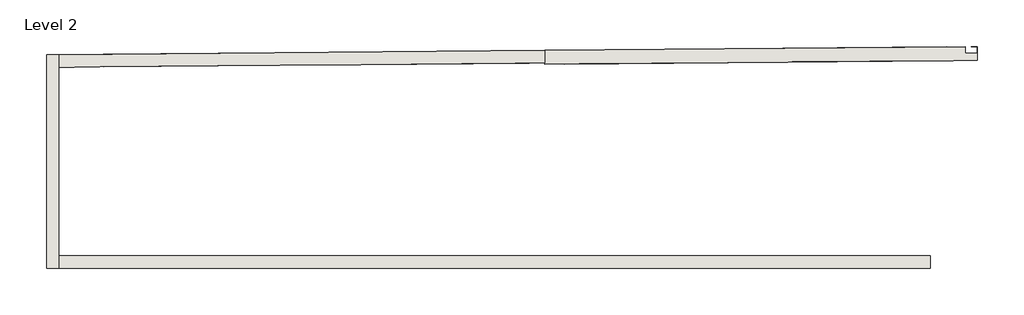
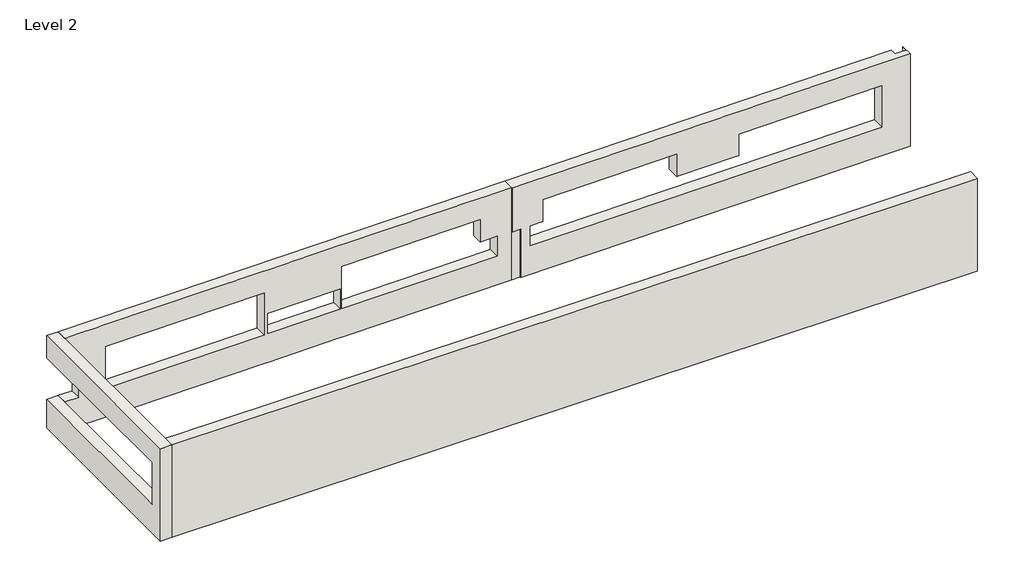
# One storey: 4 walls.
"""IFC4 building model written with IfcOpenShell, lengths in millimetres."""

from ifc_helpers import new_model, si_unit, origin, place, context, project, spatial, faceted_brep, element, save

model = new_model("IFC4")

# Units and contexts
model_context = context("Model", 3, world=origin())
ifc_project = project(units=[si_unit("LENGTHUNIT", "METRE", prefix="MILLI")], contexts=[model_context])

# Site, building, storey
site = spatial("IfcSite", under=ifc_project)
building = spatial("IfcBuilding", under=site)
storey = spatial("IfcBuildingStorey", under=building, Name="Level 2", Elevation=3200.4)

# Walls
placement = place(None, origin())
element("IfcWall", 1, ObjectType="Generic - 14\"", at=placement, inside=storey, context=model_context, shape_type="Brep", body=[
    faceted_brep([(-44628.0293915, 6746.9107856, 2307.6227604), (-44628.0293915, 6746.9107856, 941.5427435), (-45066.7463237, 6742.9289045, 941.5427435), (-45066.7463237, 6742.9289045, 0.0), (-44630.6658127, 6746.8868569, 0.0), (-44046.4658127, 6752.189171, 0.0), (-38857.288104, 6799.2871679, 0.0), (-38742.988104, 6800.3245772, 0.0), (-36479.0233909, 6820.872766, 0.0), (-36428.2254832, 6821.3338178, 0.0), (-31148.8430205, 6869.2505309, 0.0), (-31148.8430205, 6869.2505309, 1589.2859375), (-31148.8430205, 6869.2505309, 3028.95), (-32016.8796389, 6861.3720599, 3028.95), (-32118.4796389, 6860.4499183, 3028.95), (-36428.2254832, 6821.3338178, 3028.95), (-36479.0233909, 6820.872766, 3028.95), (-38742.988104, 6800.3245772, 3028.95), (-38857.288104, 6799.2871679, 3028.95), (-43894.0658127, 6753.5723833, 3028.95), (-44046.4658127, 6752.189171, 3028.95), (-44630.6658127, 6746.8868569, 3028.95), (-45066.7463237, 6742.9289045, 3028.95), (-45066.7463237, 6742.9289045, 2307.6227604), (-43791.710308, 6754.501382, 941.5427435), (-43791.710308, 6754.501382, 2317.4781885), (-38857.4043209, 6799.2861131, 2317.4781885), (-38857.4043209, 6799.2861131, 941.5427435), (-38739.5302856, 6800.355961, 941.5427435), (-38739.5302856, 6800.355961, 1589.1201837), (-36479.0233909, 6820.872766, 1589.1201837), (-36479.0233909, 6820.872766, 941.5427435), (-36428.6882326, 6821.3296178, 941.5427435), (-36428.6882326, 6821.3296178, 2317.4781885), (-32115.5943235, 6860.476106, 2317.4781885), (-32115.5943235, 6860.476106, 1589.1201837), (-32016.8796389, 6861.3720599, 1589.1201837), (-31596.3210312, 6865.1891325, 1589.1201837), (-31596.3210312, 6865.1891325, 941.5427435), (-44631.2567541, 7102.4961398, 941.5427435), (-44631.2567541, 7102.4961398, 2307.6227604), (-45069.9736863, 7098.5142587, 2307.6227604), (-45069.9736863, 7098.5142587, 3028.95), (-31152.0703831, 7224.8358851, 3028.95), (-31152.0703831, 7224.8358851, 0.0), (-45069.9736863, 7098.5142587, 0.0), (-45069.9736863, 7098.5142587, 941.5427435), (-43794.9376706, 7110.0867362, 2317.4781885), (-43794.9376706, 7110.0867362, 941.5427435), (-38860.6316834, 7154.8714673, 941.5427435), (-38860.6316834, 7154.8714673, 2317.4781885), (-38742.7576482, 7155.9413153, 1589.1201837), (-38742.7576482, 7155.9413153, 941.5427435), (-36482.2507535, 7176.4581202, 941.5427435), (-36482.2507535, 7176.4581202, 1589.1201837), (-36431.9155952, 7176.914972, 2317.4781885), (-36431.9155952, 7176.914972, 941.5427435), (-31599.5483938, 7220.7744867, 941.5427435), (-31599.5483938, 7220.7744867, 1589.1201837), (-32118.821686, 7216.0614602, 1589.1201837), (-32118.821686, 7216.0614602, 2317.4781885), (-45069.3973245, 7035.0116932, 2307.6227604), (-45069.959087, 7096.9057421, 2307.6227604), (-45069.959087, 7096.9057421, 941.5427435), (-45069.3973245, 7035.0116932, 941.5427435), (-45069.3973245, 7035.0116932, 0.0), (-45069.959087, 7096.9057421, 0.0), (-45069.3973245, 7035.0116932, 3028.95), (-45069.959087, 7096.9057421, 3028.95)], [[[0, 1, 2, 3, 4, 5, 6, 7, 8, 9, 10, 11, 12, 13, 14, 15, 16, 17, 18, 19, 20, 21, 22, 23], [24, 25, 26, 27], [28, 29, 30, 31], [32, 33, 34, 35, 36, 37, 38]], [[39, 40, 41, 42, 43, 44, 45, 46], [47, 48, 49, 50], [51, 52, 53, 54], [55, 56, 57, 58, 59, 60]], [[24, 48, 47, 25]], [[25, 47, 50, 26]], [[26, 50, 49, 27]], [[48, 24, 27, 49]], [[39, 1, 0, 40]], [[40, 0, 23, 61, 62, 41]], [[1, 39, 46, 63, 64, 2]], [[28, 52, 51, 29]], [[29, 51, 54, 30]], [[30, 54, 53, 31]], [[52, 28, 31, 53]], [[32, 56, 55, 33]], [[33, 55, 60, 34]], [[34, 60, 59, 35]], [[35, 59, 58, 37, 36]], [[37, 58, 57, 38]], [[56, 32, 38, 57]], [[10, 9, 8, 7, 6, 5, 4, 3, 65, 66, 45, 44]], [[12, 11, 10, 44, 43]], [[45, 66, 65, 3, 2, 64, 63, 46]], [[22, 67, 68, 42, 41, 62, 61, 23]], [[22, 21, 20, 19, 18, 17, 16, 15, 14, 13, 12, 43, 42, 68, 67]]]),
])
element("IfcWall", 2, ObjectType="Generic - 14\"", at=placement, inside=storey, context=model_context, shape_type="Brep", body=[
    faceted_brep([(-45069.3973245, 984.9491383, 3028.95), (-45069.3973245, 984.9491383, 0.0), (-45069.3973245, 1340.5491383, 0.0), (-45069.3973245, 7035.0116932, 0.0), (-45069.3973245, 7035.0116932, 941.5427435), (-45069.3973245, 1429.4491383, 941.5427435), (-45069.3973245, 1429.4491383, 2307.6227604), (-45069.3973245, 7035.0116932, 2307.6227604), (-45069.3973245, 7035.0116932, 3028.95), (-45069.3973245, 1340.5491383, 3028.95), (-45424.9973245, 7096.9057421, 0.0), (-45424.9973245, 984.9491383, 0.0), (-45424.9973245, 984.9491383, 3028.95), (-45424.9973245, 7096.9057421, 3028.95), (-45424.9973245, 7096.9057421, 2307.6227604), (-45424.9973245, 1429.4491383, 2307.6227604), (-45424.9973245, 1429.4491383, 941.5427435), (-45424.9973245, 7096.9057421, 941.5427435), (-45069.959087, 7096.9057421, 0.0), (-45069.959087, 7096.9057421, 3028.95), (-45069.959087, 7096.9057421, 2307.6227604), (-45069.959087, 7096.9057421, 941.5427435)], [[[0, 1, 2, 3, 4, 5, 6, 7, 8, 9]], [[10, 11, 12, 13, 14, 15, 16, 17]], [[11, 10, 18, 3, 2, 1]], [[14, 13, 19, 20]], [[10, 17, 21, 18]], [[13, 12, 0, 9, 8, 19]], [[1, 0, 12, 11]], [[5, 16, 15, 6]], [[6, 15, 14, 20, 7]], [[16, 5, 4, 21, 17]], [[4, 3, 18, 21]], [[8, 7, 20, 19]]]),
])
element("IfcWall", 3, ObjectType="Generic - 14\"", at=placement, inside=storey, context=model_context, shape_type="Brep", body=[
    faceted_brep([(-45069.3973245, 984.9491383, 0.0), (-20105.8145713, 984.9491383, 0.0), (-20105.8145713, 984.9491383, 3028.95), (-45069.3973245, 984.9491383, 3028.95), (-45069.3973245, 1340.5491383, 0.0), (-45069.3973245, 1340.5491383, 3028.95), (-44630.6658127, 1340.5491383, 3028.95), (-44046.4658127, 1340.5491383, 3028.95), (-43894.0658127, 1340.5491383, 3028.95), (-20105.8145713, 1340.5491383, 3028.95), (-20105.8145713, 1340.5491383, 0.0)], [[[0, 1, 2, 3]], [[4, 5, 6, 7, 8, 9, 10]], [[1, 0, 4, 10]], [[0, 3, 5, 4]], [[2, 1, 10, 9]], [[3, 2, 9, 8, 7, 6, 5]]]),
])
element("IfcWall", 4, ObjectType="Generic - 15 1/2\"", at=placement, inside=storey, context=model_context, shape_type="Brep", body=[
    faceted_brep([(-18755.7525663, 6943.6310868, 0.0), (-18755.7525663, 6943.6310868, 3028.95), (-19451.8869249, 6937.3128345, 3028.95), (-19629.6869249, 6935.6990868, 3028.95), (-24082.994848, 6895.2799886, 3028.95), (-24184.594848, 6894.3578471, 3028.95), (-25924.9019679, 6878.5624775, 3028.95), (-26026.5019679, 6877.6403359, 3028.95), (-30180.827881, 6839.9348573, 3028.95), (-30282.427881, 6839.0127157, 3028.95), (-31148.4972317, 6831.1521, 3028.95), (-31148.4972317, 6831.1521, 1589.2859375), (-30885.3898174, 6833.5401147, 1589.2859375), (-30885.3898174, 6833.5401147, 0.0), (-19629.6869249, 6935.6990868, 0.0), (-19451.8869249, 6937.3128345, 0.0), (-30178.0077826, 6839.9604531, 1589.1201837), (-30178.0077826, 6839.9604531, 2317.4781885), (-26024.1763308, 6877.6614439, 2317.4781885), (-26024.1763308, 6877.6614439, 1589.1201837), (-25924.9019679, 6878.5624775, 1589.1201837), (-24184.594848, 6894.3578471, 1589.1201837), (-24082.9251861, 6895.2806209, 1589.1201837), (-24082.9251861, 6895.2806209, 2291.8788214), (-19629.6869249, 6935.6990868, 2291.8788214), (-19629.6869249, 6935.6990868, 941.5427435), (-30586.7286461, 6836.2508222, 941.5427435), (-30586.7286461, 6836.2508222, 1589.1201837), (-30282.427881, 6839.0127157, 1589.1201837), (-30180.827881, 6839.9348573, 1589.1201837), (-18755.7525663, 7337.3473025, 3028.95), (-18755.7525663, 7337.3473025, 0.0), (-18756.4867691, 7337.3406387, 0.0), (-18756.4867691, 7337.3406387, 966.5683954), (-18934.2867691, 7335.7268909, 966.5683954), (-18934.2867691, 7335.7268909, 2317.4063228), (-18756.4867691, 7337.3406387, 2317.4063228), (-18756.4867691, 7337.3406387, 3028.95), (-31152.0703831, 7224.8358851, 0.0), (-31152.0703831, 7224.8358851, 3028.95), (-19112.0867691, 7334.1131432, 3028.95), (-19112.0867691, 7334.1131432, 0.0), (-30181.580934, 7233.6442381, 2317.4781885), (-30181.580934, 7233.6442381, 1589.1201837), (-30590.3017975, 7229.9346072, 1589.1201837), (-30590.3017975, 7229.9346072, 941.5427435), (-19633.2600764, 7329.3828718, 941.5427435), (-19633.2600764, 7329.3828718, 2291.8788214), (-24086.4983376, 7288.9644059, 2291.8788214), (-24086.4983376, 7288.9644059, 1589.1201837), (-26027.7494822, 7271.3452289, 1589.1201837), (-26027.7494822, 7271.3452289, 2317.4781885), (-30885.7356063, 6871.6385455, 0.0), (-31148.8430205, 6869.2505309, 0.0), (-19112.0867691, 7145.3261276, 0.0), (-18756.4867691, 7145.3261276, 0.0), (-31148.8430205, 6869.2505309, 1589.2859375), (-31148.8430205, 6869.2505309, 3028.95), (-18756.4867691, 7145.3261276, 3028.95), (-19112.0867691, 7145.3261276, 3028.95), (-18756.4867691, 7335.7268909, 2317.4063228), (-18756.4867691, 7335.7268909, 966.5683954), (-30885.7356063, 6871.6385455, 1589.2859375)], [[[0, 1, 2, 3, 4, 5, 6, 7, 8, 9, 10, 11, 12, 13, 14, 15], [16, 17, 18, 19, 20, 21, 22, 23, 24, 25, 26, 27, 28, 29]], [[30, 31, 32, 33, 34, 35, 36, 37]], [[38, 39, 40, 41], [42, 43, 44, 45, 46, 47, 48, 49, 50, 51]], [[31, 0, 15, 14, 13, 52, 53, 38, 41, 54, 55, 32]], [[39, 38, 53, 56, 11, 10, 57]], [[1, 0, 31, 30]], [[39, 57, 10, 9, 8, 7, 6, 5, 4, 3, 2, 1, 30, 37, 58, 59, 40]], [[17, 42, 51, 18]], [[42, 17, 16, 43]], [[43, 16, 29, 28, 27, 44]], [[44, 27, 26, 45]], [[45, 26, 25, 46]], [[41, 40, 59, 54]], [[33, 32, 55, 58, 37, 36, 60, 61]], [[55, 54, 59, 58]], [[62, 52, 13, 12]], [[52, 62, 56, 53]], [[62, 12, 11, 56]], [[24, 47, 46, 25]], [[47, 24, 23, 48]], [[48, 23, 22, 49]], [[49, 22, 21, 20, 19, 50]], [[50, 19, 18, 51]], [[60, 36, 35]], [[33, 61, 34]], [[61, 60, 35, 34]]]),
])

save(model, "model.ifc")
